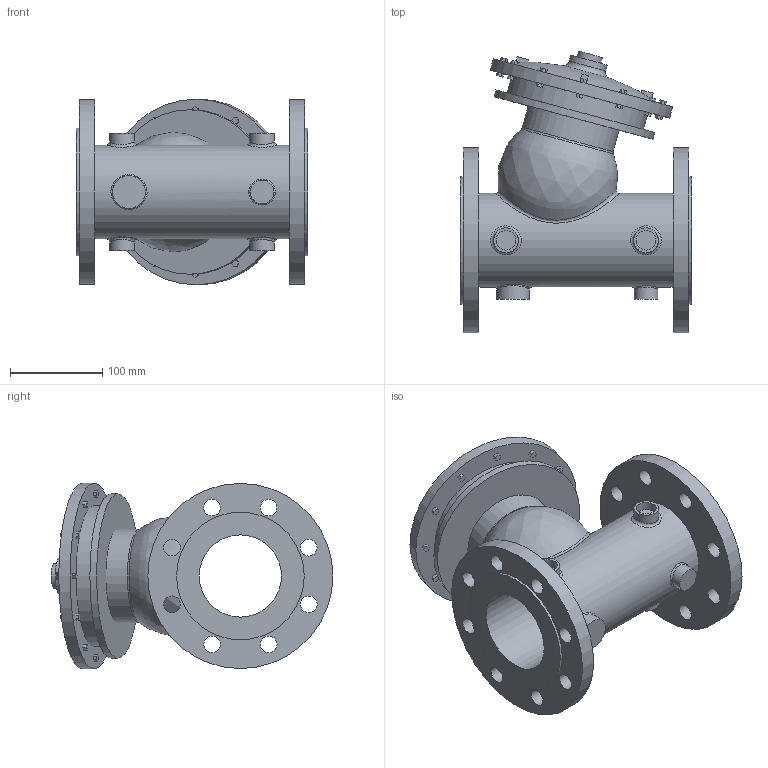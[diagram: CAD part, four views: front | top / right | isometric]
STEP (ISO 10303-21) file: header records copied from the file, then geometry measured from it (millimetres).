
FILE_DESCRIPTION(/* description */ ('VIC FP VALVE PRESSURE RELIEF SERIES 867-7UF (PN16)','CAx-IF Rec.Pracs.---Representation and Presentation of Product Manufacturing Information (PMI)---4.0---2014-10-13'),/* implementation_level */ '2;1');
FILE_NAME(/* name */ 'C:\Series 867-7UF\Series 867-7UF final\pn16\step\Victaulic_FP-Bermad_Valve Pressure Relief_Series 867-7UF (PN16)\Victaulic_FP-Bermad_Valve Pressure Relief_Series 867-7UF (PN16)_3 (80).stp',/* time_stamp */ '2021-09-02T19:16:57+06:00',/* author */ ('kkamble'),/* organization */ ('Victaulic'),/* preprocessor_version */ 'ST-DEVELOPER v17.2',/* originating_system */ 'Autodesk Inventor 2019',/* authorisation */ '');
FILE_SCHEMA (('AP242_MANAGED_MODEL_BASED_3D_ENGINEERING_MIM_LF { 1 0 10303 442 1 1 4 }'));
Length unit declared in the file: inch
Products named in the file (1): 867-7UF-03.0
Bounding box: 249.94 x 304.79 x 200.66 mm (x, y, z)
Volume: 3397400.2 mm3; surface area: 429048 mm2
Topology: 6 solids, 6 shells, 265 faces, 664 edges, 451 vertices
Faces by surface type: plane 210, cylinder 44, bspline 9, torus 2
Full cylindrical faces by diameter (mm): 18 x16, 21.336 x4, 25.4 x1, 26.67 x1, 26.873 x4, 35.56 x1, 40.64 x1, 88.9 x1, 101.6 x2, 138 x2, 152.4 x1, 177.8 x1, 200.152 x2, 200.66 x1
Entity records: 9390 total; most frequent: CARTESIAN_POINT 2561, ORIENTED_EDGE 1340, DIRECTION 1263, EDGE_CURVE 670, LINE 511, VECTOR 511, VERTEX_POINT 457, AXIS2_PLACEMENT_3D 376
